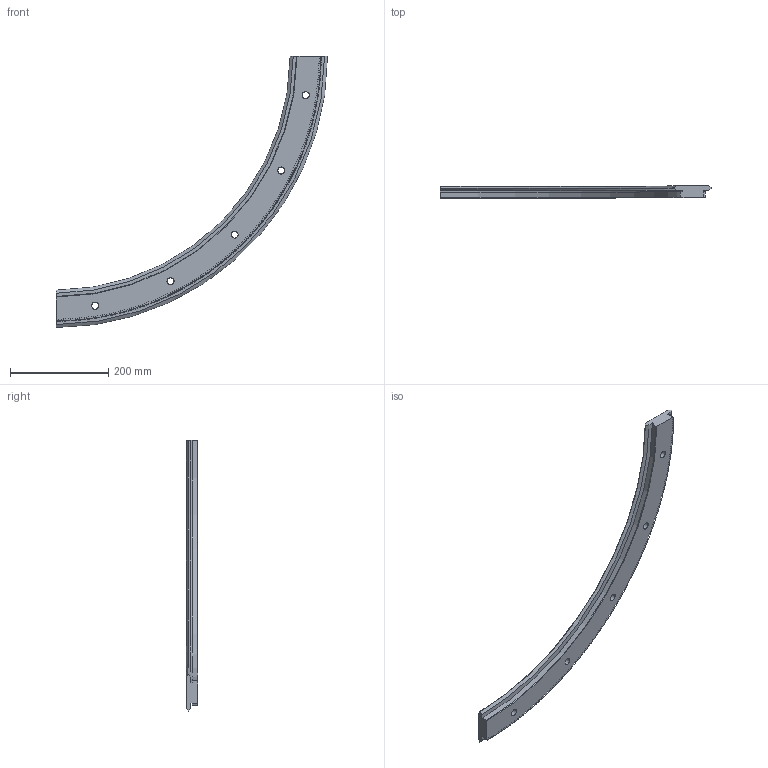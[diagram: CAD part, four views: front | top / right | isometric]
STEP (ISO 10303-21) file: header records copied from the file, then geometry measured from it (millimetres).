
FILE_DESCRIPTION( ( 'STEP AP203' ), '1' );
FILE_NAME( 'p:/temp/worker_35/temp/exporttempdir_1816_175_wltFS/format_0/R76 1033 R90 P.stp', '2021-07-19T05:42:22', ( 'License CC BY-ND 4.0' ), ( 'CADENAS' ), ' ', 'PARTsolutions', ' ' );
FILE_SCHEMA( ( 'CONFIG_CONTROL_DESIGN' ) );
Length unit declared in the file: millimetre
Products named in the file (1): _R76 1033 R90 P
Bounding box: 552.59 x 24 x 552.59 mm (x, y, z)
Volume: 1059972.6 mm3; surface area: 181392.2 mm2
Topology: 1 solids, 1 shells, 1116 faces, 2962 edges, 1853 vertices
Faces by surface type: plane 733, cylinder 192, cone 189, torus 2
Full cylindrical faces by diameter (mm): 14 x5, 20 x5
Entity records: 34702 total; most frequent: CARTESIAN_POINT 7051, ORIENTED_EDGE 5894, DIRECTION 5746, EDGE_CURVE 2947, AXIS2_PLACEMENT_3D 2054, VERTEX_POINT 1853, LINE 1638, VECTOR 1638
